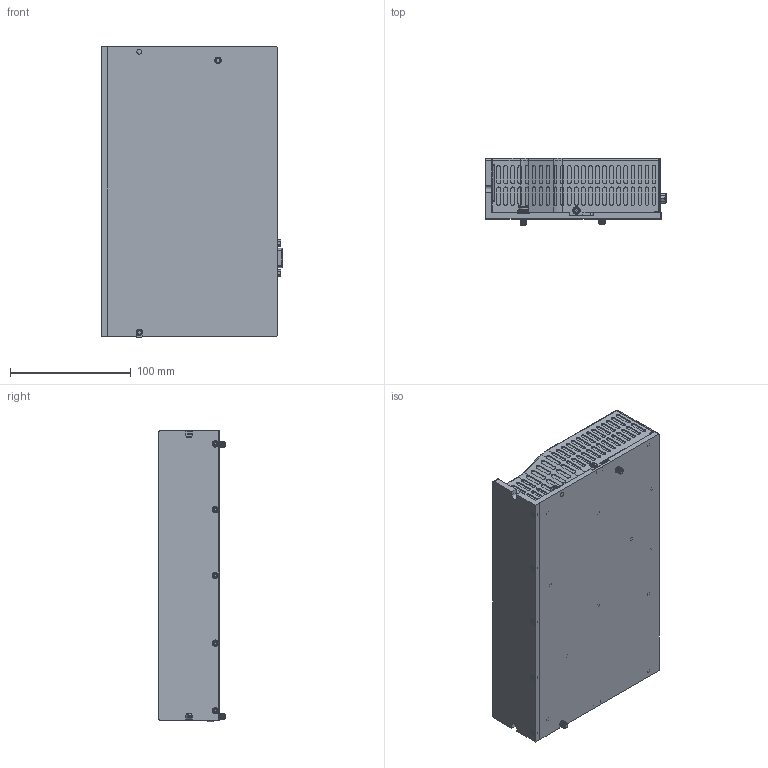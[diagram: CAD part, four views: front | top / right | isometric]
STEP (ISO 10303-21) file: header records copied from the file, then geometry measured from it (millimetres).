
FILE_DESCRIPTION((''),'2;1');
FILE_NAME('PRT0002','2022-04-06T16:44:24',('RD0058'),(''),'CREO PARAMETRIC BY PTC INC, 2016510','CREO PARAMETRIC BY PTC INC, 2016510','');
FILE_SCHEMA(('CONFIG_CONTROL_DESIGN','SHAPE_APPEARANCE_LAYERS_GROUPS'));
Products named in the file (1): PRT0002
Bounding box: 149.18 x 55.4 x 241.31 mm (x, y, z)
Volume: 1534841.7 mm3; surface area: 195595.5 mm2
Topology: 1 solids, 34 shells, 1849 faces, 4849 edges, 3124 vertices
Faces by surface type: plane 1003, cylinder 634, bspline 94, cone 70, torus 48
Entity records: 74925 total; most frequent: CARTESIAN_POINT 18430, ORIENTED_EDGE 9698, DIRECTION 9379, EDGE_CURVE 4849, AXIS2_PLACEMENT_3D 3145, VERTEX_POINT 3124, VECTOR 3089, LINE 3089
